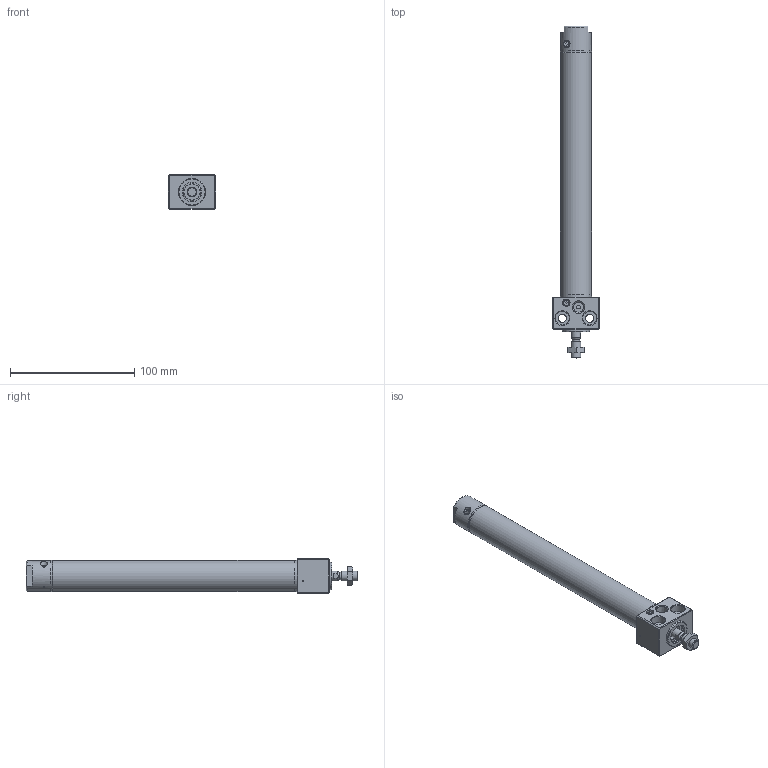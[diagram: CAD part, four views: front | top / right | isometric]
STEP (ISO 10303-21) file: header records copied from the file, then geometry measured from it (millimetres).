
FILE_DESCRIPTION((''),'2;1');
FILE_NAME('I:\3D電子目錄\氣缸\DBS\DBS\DBS20x150-C.stp','2007-10-08T08:30:11',('Administrator'),(''),'Autodesk Inventor 2008','Autodesk Inventor 2008','');
FILE_SCHEMA(('AUTOMOTIVE_DESIGN { 1 0 10303 214 1 1 1 1 }'));
Length unit declared in the file: millimetre
Products named in the file (1): DBS20x150-C
Bounding box: 38 x 267.6 x 28 mm (x, y, z)
Volume: 73140.2 mm3; surface area: 44432.5 mm2
Topology: 8 solids, 8 shells, 206 faces, 422 edges, 260 vertices
Faces by surface type: plane 91, cone 50, cylinder 49, bspline 13, torus 3
Full cylindrical faces by diameter (mm): 1.2 x1, 1.9 x2, 3 x3, 3.3 x2, 4.6 x2, 5 x3, 6 x4, 8 x3, 8.5 x1, 10 x1, 10.5 x2, 12 x3, 14.5 x2, 16 x2, 17 x1, 18 x2, 20 x1, 20.2 x2, 22 x1, 22.2 x6, 25 x4
Entity records: 5331 total; most frequent: CARTESIAN_POINT 1411, DIRECTION 818, ORIENTED_EDGE 632, AXIS2_PLACEMENT_3D 362, EDGE_LOOP 351, EDGE_CURVE 316, VERTEX_POINT 245, FACE_OUTER_BOUND 206
